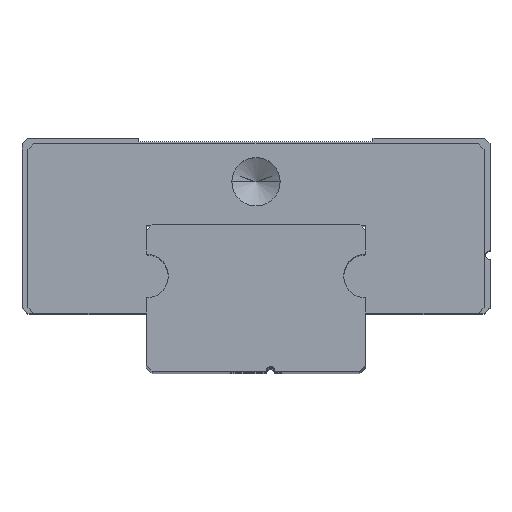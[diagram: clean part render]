
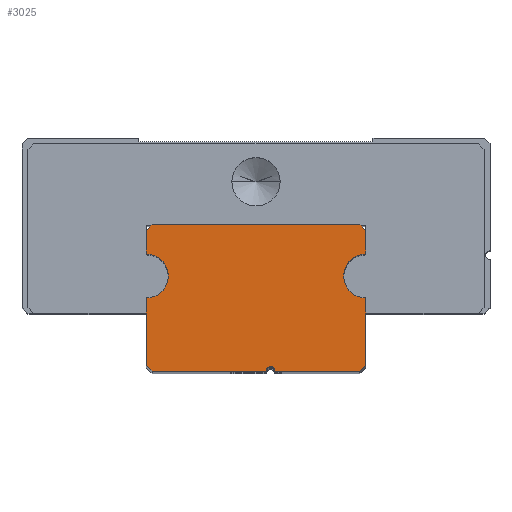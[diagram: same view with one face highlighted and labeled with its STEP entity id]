
A CAD part, top view. The second image highlights one B-rep face of the part: STEP entity #3025.
In plain terms, the highlighted planar face has unit normal (0, 0, 1).
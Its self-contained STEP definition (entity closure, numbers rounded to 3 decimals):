
#4 = CARTESIAN_POINT ( 'NONE',  ( 1., 0., 55. ) ) ;
#88 = EDGE_CURVE ( 'NONE', #2698, #2637, #2563, .T. ) ;
#178 = CARTESIAN_POINT ( 'NONE',  ( -7.5, 9.6, 55. ) ) ;
#210 = EDGE_CURVE ( 'NONE', #2505, #2002, #1854, .T. ) ;
#361 = ORIENTED_EDGE ( 'NONE', *, *, #210, .T. ) ;
#369 = CARTESIAN_POINT ( 'NONE',  ( 7.1, 10., 55. ) ) ;
#389 = CARTESIAN_POINT ( 'NONE',  ( 1., 0., 55. ) ) ;
#422 = CARTESIAN_POINT ( 'NONE',  ( 0.7, 0., 55. ) ) ;
#459 = CARTESIAN_POINT ( 'NONE',  ( 7.5, 9.6, 55. ) ) ;
#502 = DIRECTION ( 'NONE',  ( -1., 0., 0. ) ) ;
#511 = ORIENTED_EDGE ( 'NONE', *, *, #4307, .F. ) ;
#517 = VERTEX_POINT ( 'NONE', #2666 ) ;
#630 = DIRECTION ( 'NONE',  ( -1., 0., 0. ) ) ;
#673 = CARTESIAN_POINT ( 'NONE',  ( 1., 0., 55. ) ) ;
#720 = CARTESIAN_POINT ( 'NONE',  ( -7.5, 0.4, 55. ) ) ;
#747 = LINE ( 'NONE', #1795, #1040 ) ;
#790 = DIRECTION ( 'NONE',  ( -1., 0., 0. ) ) ;
#823 = EDGE_CURVE ( 'NONE', #4095, #3095, #4209, .T. ) ;
#851 = CARTESIAN_POINT ( 'NONE',  ( 7.5, 0.4, 55. ) ) ;
#915 = VERTEX_POINT ( 'NONE', #2053 ) ;
#944 = VECTOR ( 'NONE', #2899, 1000. ) ;
#952 = CARTESIAN_POINT ( 'NONE',  ( 7.5, 5., 55. ) ) ;
#985 = VECTOR ( 'NONE', #4187, 1000. ) ;
#1013 = DIRECTION ( 'NONE',  ( -1., 0., 0. ) ) ;
#1040 = VECTOR ( 'NONE', #2278, 1000. ) ;
#1149 = EDGE_CURVE ( 'NONE', #915, #517, #4893, .T. ) ;
#1190 = DIRECTION ( 'NONE',  ( -1., 0., 0. ) ) ;
#1226 = CARTESIAN_POINT ( 'NONE',  ( -7.5, 6.5, 55. ) ) ;
#1298 = AXIS2_PLACEMENT_3D ( 'NONE', #1422, #4086, #2214 ) ;
#1334 = ORIENTED_EDGE ( 'NONE', *, *, #4155, .F. ) ;
#1335 = EDGE_CURVE ( 'NONE', #2741, #3095, #3266, .T. ) ;
#1422 = CARTESIAN_POINT ( 'NONE',  ( 1., 0., 55. ) ) ;
#1478 = VECTOR ( 'NONE', #4487, 1000. ) ;
#1511 = VERTEX_POINT ( 'NONE', #952 ) ;
#1518 = CARTESIAN_POINT ( 'NONE',  ( -7.5, 0., 55. ) ) ;
#1534 = ORIENTED_EDGE ( 'NONE', *, *, #1335, .T. ) ;
#1560 = CARTESIAN_POINT ( 'NONE',  ( -7.1, 10., 55. ) ) ;
#1581 = LINE ( 'NONE', #4603, #4757 ) ;
#1661 = CARTESIAN_POINT ( 'NONE',  ( 7.5, 8., 55. ) ) ;
#1727 = ORIENTED_EDGE ( 'NONE', *, *, #2176, .T. ) ;
#1795 = CARTESIAN_POINT ( 'NONE',  ( -7.5, 0., 55. ) ) ;
#1854 = LINE ( 'NONE', #369, #2166 ) ;
#1857 = DIRECTION ( 'NONE',  ( 0., 0., -1. ) ) ;
#1909 = DIRECTION ( 'NONE',  ( -1., 0., 0. ) ) ;
#2002 = VERTEX_POINT ( 'NONE', #4696 ) ;
#2053 = CARTESIAN_POINT ( 'NONE',  ( -7.5, 5., 55. ) ) ;
#2059 = LINE ( 'NONE', #4787, #3096 ) ;
#2166 = VECTOR ( 'NONE', #4821, 1000. ) ;
#2176 = EDGE_CURVE ( 'NONE', #2698, #3798, #3023, .T. ) ;
#2208 = EDGE_CURVE ( 'NONE', #517, #2786, #2288, .T. ) ;
#2214 = DIRECTION ( 'NONE',  ( 0., -1., 0. ) ) ;
#2241 = FACE_OUTER_BOUND ( 'NONE', #3853, .T. ) ;
#2278 = DIRECTION ( 'NONE',  ( 0., 1., 0. ) ) ;
#2288 = LINE ( 'NONE', #1518, #2695 ) ;
#2296 = DIRECTION ( 'NONE',  ( 0., 0., 1. ) ) ;
#2334 = VERTEX_POINT ( 'NONE', #4839 ) ;
#2372 = ORIENTED_EDGE ( 'NONE', *, *, #4178, .F. ) ;
#2382 = DIRECTION ( 'NONE',  ( 0.707, 0.707, 0. ) ) ;
#2505 = VERTEX_POINT ( 'NONE', #459 ) ;
#2563 = LINE ( 'NONE', #673, #2888 ) ;
#2582 = PLANE ( 'NONE',  #1298 ) ;
#2633 = AXIS2_PLACEMENT_3D ( 'NONE', #2774, #3075, #1190 ) ;
#2637 = VERTEX_POINT ( 'NONE', #2923 ) ;
#2666 = CARTESIAN_POINT ( 'NONE',  ( -7.5, 8., 55. ) ) ;
#2668 = ORIENTED_EDGE ( 'NONE', *, *, #2208, .F. ) ;
#2695 = VECTOR ( 'NONE', #3395, 1000. ) ;
#2698 = VERTEX_POINT ( 'NONE', #4159 ) ;
#2741 = VERTEX_POINT ( 'NONE', #720 ) ;
#2765 = AXIS2_PLACEMENT_3D ( 'NONE', #1226, #3152, #502 ) ;
#2774 = CARTESIAN_POINT ( 'NONE',  ( 7.5, 6.5, 55. ) ) ;
#2786 = VERTEX_POINT ( 'NONE', #3900 ) ;
#2888 = VECTOR ( 'NONE', #1013, 1000. ) ;
#2899 = DIRECTION ( 'NONE',  ( -0.707, -0.707, 0. ) ) ;
#2923 = CARTESIAN_POINT ( 'NONE',  ( 1.3, 0., 55. ) ) ;
#2932 = ORIENTED_EDGE ( 'NONE', *, *, #823, .F. ) ;
#3023 = LINE ( 'NONE', #851, #4182 ) ;
#3025 = ADVANCED_FACE ( 'NONE', ( #2241 ), #2582, .F. ) ;
#3075 = DIRECTION ( 'NONE',  ( 0., 0., 1. ) ) ;
#3095 = VERTEX_POINT ( 'NONE', #3846 ) ;
#3096 = VECTOR ( 'NONE', #630, 1000. ) ;
#3104 = AXIS2_PLACEMENT_3D ( 'NONE', #4, #1857, #790 ) ;
#3111 = AXIS2_PLACEMENT_3D ( 'NONE', #4107, #2296, #1909 ) ;
#3152 = DIRECTION ( 'NONE',  ( 0., 0., 1. ) ) ;
#3192 = VECTOR ( 'NONE', #3317, 1000. ) ;
#3249 = ORIENTED_EDGE ( 'NONE', *, *, #3895, .T. ) ;
#3266 = LINE ( 'NONE', #4767, #3192 ) ;
#3302 = VERTEX_POINT ( 'NONE', #1661 ) ;
#3317 = DIRECTION ( 'NONE',  ( 0.707, -0.707, 0. ) ) ;
#3395 = DIRECTION ( 'NONE',  ( 0., 1., 0. ) ) ;
#3488 = ORIENTED_EDGE ( 'NONE', *, *, #88, .F. ) ;
#3570 = LINE ( 'NONE', #178, #944 ) ;
#3615 = ORIENTED_EDGE ( 'NONE', *, *, #4203, .F. ) ;
#3784 = EDGE_CURVE ( 'NONE', #1511, #3798, #3871, .T. ) ;
#3798 = VERTEX_POINT ( 'NONE', #4535 ) ;
#3809 = ORIENTED_EDGE ( 'NONE', *, *, #3784, .F. ) ;
#3846 = CARTESIAN_POINT ( 'NONE',  ( -7.1, 0., 55. ) ) ;
#3853 = EDGE_LOOP ( 'NONE', ( #3488, #1727, #3809, #1334, #3615, #2372, #361, #4394, #3875, #2668, #3883, #511, #1534, #2932, #3249 ) ) ;
#3871 = LINE ( 'NONE', #4557, #1478 ) ;
#3875 = ORIENTED_EDGE ( 'NONE', *, *, #4706, .T. ) ;
#3883 = ORIENTED_EDGE ( 'NONE', *, *, #1149, .F. ) ;
#3895 = EDGE_CURVE ( 'NONE', #4095, #2637, #4356, .T. ) ;
#3900 = CARTESIAN_POINT ( 'NONE',  ( -7.5, 9.6, 55. ) ) ;
#3920 = DIRECTION ( 'NONE',  ( 0., -1., 0. ) ) ;
#4056 = CIRCLE ( 'NONE', #2633, 1.5 ) ;
#4086 = DIRECTION ( 'NONE',  ( 0., 0., -1. ) ) ;
#4095 = VERTEX_POINT ( 'NONE', #422 ) ;
#4107 = CARTESIAN_POINT ( 'NONE',  ( 7.5, 6.5, 55. ) ) ;
#4155 = EDGE_CURVE ( 'NONE', #2334, #1511, #4604, .T. ) ;
#4159 = CARTESIAN_POINT ( 'NONE',  ( 7.1, 0., 55. ) ) ;
#4178 = EDGE_CURVE ( 'NONE', #2505, #3302, #1581, .T. ) ;
#4182 = VECTOR ( 'NONE', #2382, 1000. ) ;
#4187 = DIRECTION ( 'NONE',  ( -1., 0., 0. ) ) ;
#4203 = EDGE_CURVE ( 'NONE', #3302, #2334, #4056, .T. ) ;
#4209 = LINE ( 'NONE', #389, #985 ) ;
#4307 = EDGE_CURVE ( 'NONE', #2741, #915, #747, .T. ) ;
#4316 = VERTEX_POINT ( 'NONE', #1560 ) ;
#4356 = CIRCLE ( 'NONE', #3104, 0.3 ) ;
#4394 = ORIENTED_EDGE ( 'NONE', *, *, #4700, .T. ) ;
#4487 = DIRECTION ( 'NONE',  ( 0., -1., 0. ) ) ;
#4535 = CARTESIAN_POINT ( 'NONE',  ( 7.5, 0.4, 55. ) ) ;
#4557 = CARTESIAN_POINT ( 'NONE',  ( 7.5, 0., 55. ) ) ;
#4603 = CARTESIAN_POINT ( 'NONE',  ( 7.5, 0., 55. ) ) ;
#4604 = CIRCLE ( 'NONE', #3111, 1.5 ) ;
#4696 = CARTESIAN_POINT ( 'NONE',  ( 7.1, 10., 55. ) ) ;
#4700 = EDGE_CURVE ( 'NONE', #2002, #4316, #2059, .T. ) ;
#4706 = EDGE_CURVE ( 'NONE', #4316, #2786, #3570, .T. ) ;
#4757 = VECTOR ( 'NONE', #3920, 1000. ) ;
#4767 = CARTESIAN_POINT ( 'NONE',  ( -7.1, 0., 55. ) ) ;
#4787 = CARTESIAN_POINT ( 'NONE',  ( 7.5, 10., 55. ) ) ;
#4821 = DIRECTION ( 'NONE',  ( -0.707, 0.707, 0. ) ) ;
#4839 = CARTESIAN_POINT ( 'NONE',  ( 6., 6.5, 55. ) ) ;
#4893 = CIRCLE ( 'NONE', #2765, 1.5 ) ;
